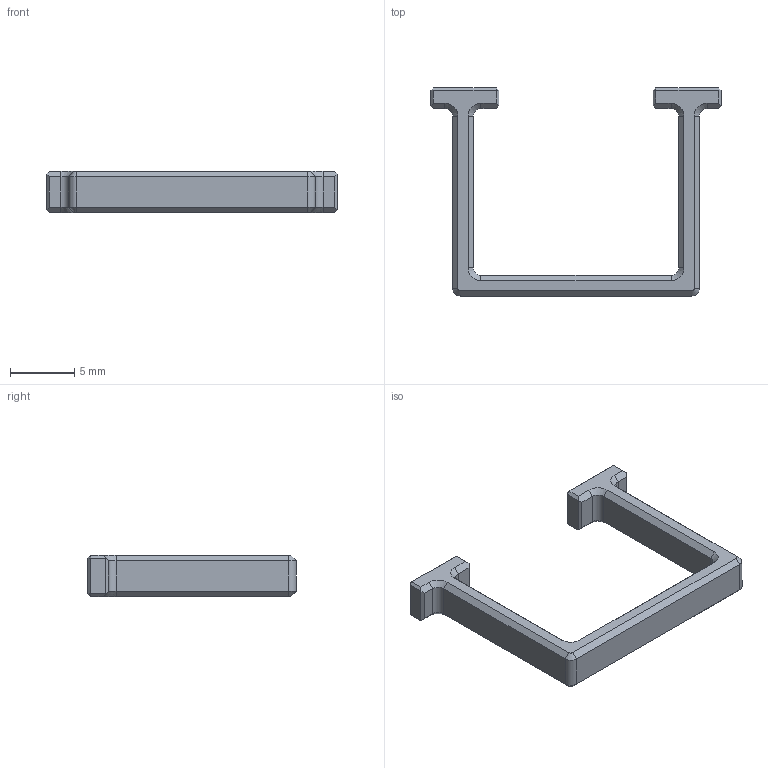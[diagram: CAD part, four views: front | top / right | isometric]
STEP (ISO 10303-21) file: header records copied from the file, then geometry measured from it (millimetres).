
FILE_DESCRIPTION(/* description */ (''),/* implementation_level */ '2;1');
FILE_NAME(/* name */ 'Mobula8_Replacement_Frame v26.step',/* time_stamp */ '2023-11-06T21:18:53-05:00',/* author */ (''),/* organization */ (''),/* preprocessor_version */ 'ST-DEVELOPER v20',/* originating_system */ 'Autodesk Translation Framework v12.14.0.127',/* authorisation */ '');
FILE_SCHEMA (('AUTOMOTIVE_DESIGN { 1 0 10303 214 3 1 1 }'));
Length unit declared in the file: millimetre
Products named in the file (1): Mobula8_Replacement_Frame
Bounding box: 22.6 x 16.2 x 3.2 mm (x, y, z)
Volume: 270.2 mm3; surface area: 488.2 mm2
Topology: 1 solids, 1 shells, 90 faces, 200 edges, 112 vertices
Faces by surface type: plane 66, cone 16, cylinder 8
Entity records: 2424 total; most frequent: DIRECTION 414, CARTESIAN_POINT 403, ORIENTED_EDGE 400, EDGE_CURVE 200, LINE 168, VECTOR 168, AXIS2_PLACEMENT_3D 123, VERTEX_POINT 112
